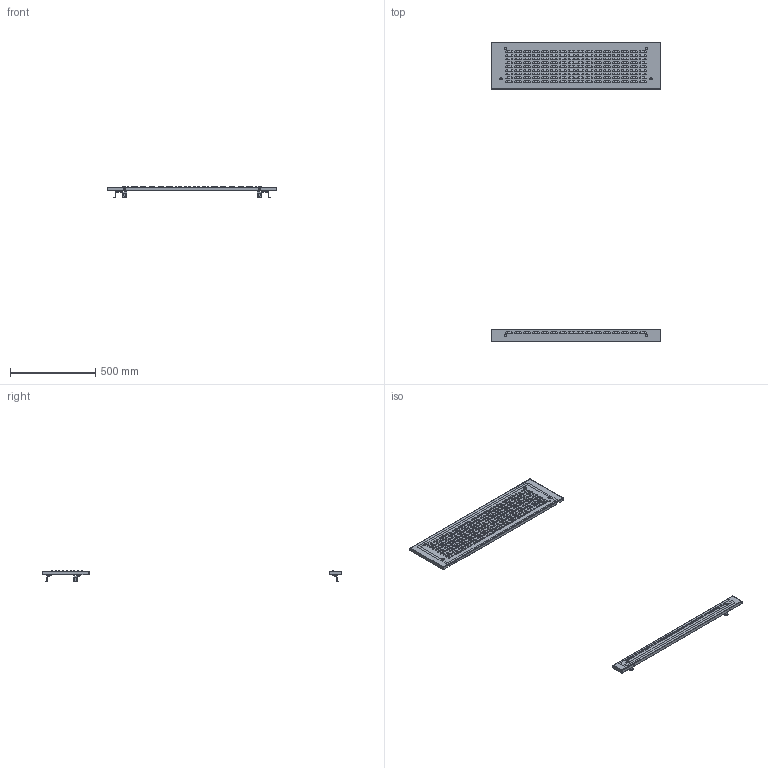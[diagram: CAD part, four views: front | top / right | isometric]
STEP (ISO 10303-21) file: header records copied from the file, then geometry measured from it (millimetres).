
FILE_DESCRIPTION(('CAx-IF Rec.Pracs.---Model Styling and Organization---1.2---2011-12-15','CAx-IF Rec.Pracs.---Geometric and Assembly Validation Properties---4.1---2014-06-16','CAx-IF Rec.Pracs.---PMI Polyline Presentation---2.0---2013-05-24'),'2;1');
FILE_NAME('R5CPFAM1031.stp','2021-05-06T03:31:25+03:00',(''),(''),'STEP Interface 4.4 by CT CoreTechnologie','3D_Evolution4.4 by CT CoreTechnologie','');
FILE_SCHEMA(('AUTOMOTIVE_DESIGN { 1 0 10303 214 1 1 1 1 }'));
Length unit declared in the file: millimetre
Products named in the file (14): R5CPFAM1031; M6x16-DIN 7985 ISR_thread; A1100001; RB.0544.00.00.1_-01; AC00C172_AC00C172; RB.0544.00.00.1_-00; RB.0740.00.00.0 ÑÁ_-03; RB.0740.00.01.0_-03; PF 7x14 R5CPFAM_- 300x1000; Ì6õ12-A5100231_straight; AC00C061_AC00C061; RB.0741.00.00.0 ÑÁ_-03; PF 7x14 R5CPFAM_- 100x1000; RB.0741.00.01.0_-03
Assembly tree (34 placements, depth 3):
  R5CPFAM1031
    M6x16-DIN 7985 ISR_thread  x6
    A1100001  x6
    RB.0544.00.00.1_-01  x3
    AC00C172_AC00C172  x6
    RB.0544.00.00.1_-00  x3
    RB.0740.00.00.0 ÑÁ_-03
      RB.0740.00.01.0_-03
      PF 7x14 R5CPFAM_- 300x1000
      Ì6õ12-A5100231_straight
      AC00C061_AC00C061
    RB.0741.00.00.0 ÑÁ_-03
      Ì6õ12-A5100231_straight
      PF 7x14 R5CPFAM_- 100x1000
      AC00C061_AC00C061
      RB.0741.00.01.0_-03
Bounding box: 994 x 1754 x 63.5 mm (x, y, z)
Surface area: 1099588.5 mm2 (no closed solid volume)
Topology: 0 solids, 48 shells, 3000 faces, 7700 edges, 4936 vertices
Faces by surface type: bspline 1340, cylinder 846, plane 814
Entity records: 102422 total; most frequent: CARTESIAN_POINT 38828, DIRECTION 13437, ORIENTED_EDGE 13140, EDGE_CURVE 6570, AXIS2_PLACEMENT_3D 5627, CIRCLE 4349, VERTEX_POINT 4184, EDGE_LOOP 2914
